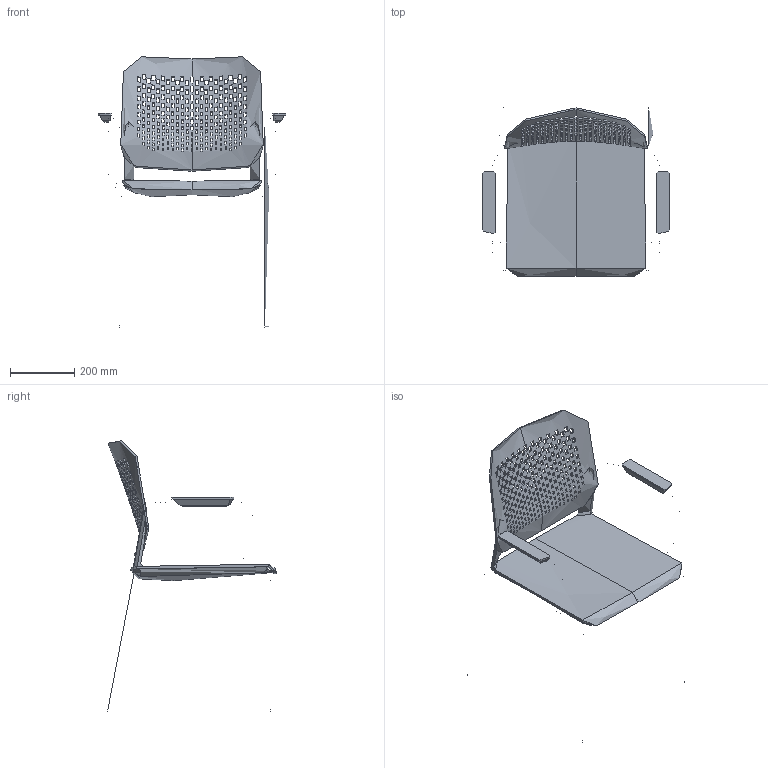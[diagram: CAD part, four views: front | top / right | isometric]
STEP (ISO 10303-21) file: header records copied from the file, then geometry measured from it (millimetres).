
FILE_DESCRIPTION(/* description */ (''),/* implementation_level */ '2;1');
FILE_NAME(/* name */ 'Time 170-B',/* time_stamp */ '2019-11-22T22:57:07+01:00',/* author */ (''),/* organization */ (''),/* preprocessor_version */ 'ST-DEVELOPER v16.5',/* originating_system */ '',/* authorisation */ '');
FILE_SCHEMA (('AUTOMOTIVE_DESIGN'));
Length unit declared in the file: millimetre
Products named in the file (1): Document
Bounding box: 582 x 524.73 x 840.75 mm (x, y, z)
Volume: 280010 mm3; surface area: 1281259.1 mm2
Topology: 2 solids, 12 shells, 1118 faces, 3297 edges, 2163 vertices
Faces by surface type: bspline 618, plane 500
Entity records: 60145 total; most frequent: CARTESIAN_POINT 39022, ORIENTED_EDGE 6546, EDGE_CURVE 3294, B_SPLINE_CURVE_WITH_KNOTS 3189, VERTEX_POINT 2161, EDGE_LOOP 1568, ADVANCED_FACE 1118, FACE_OUTER_BOUND 1118
